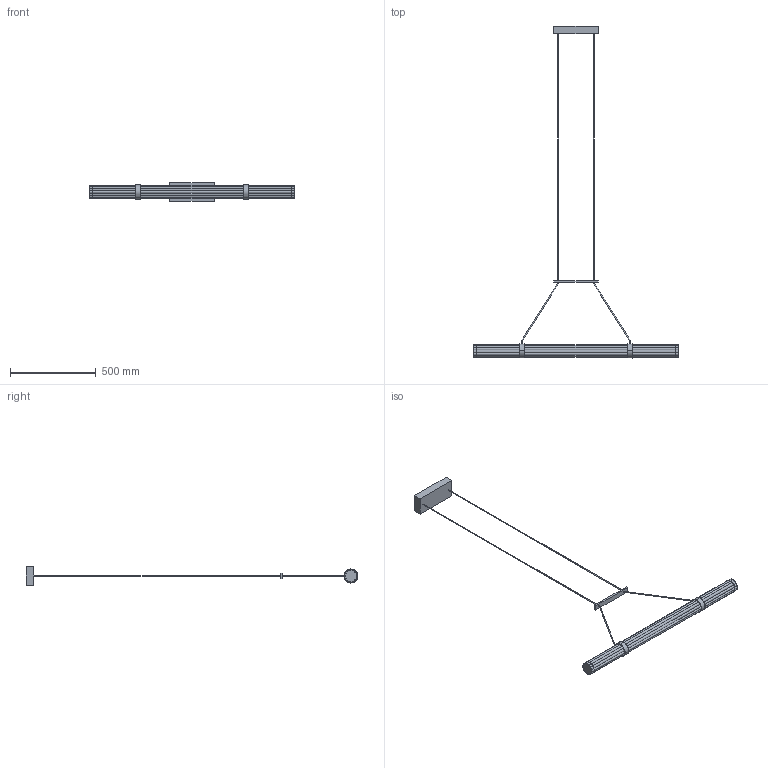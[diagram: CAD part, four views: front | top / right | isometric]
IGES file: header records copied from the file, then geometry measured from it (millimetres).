
Start section: SolidWorks IGES file using analytic representation for surfaces
Global section: file name: C:\Users\adrian\Desktop\MODELADOS USA\NIRO\NIRO_CU1314.IGS; native system: SolidWorks 2023; preprocessor: SolidWorks 2023; author: adrian; date: 260605.100514; units: inch
Bounding box: 1200 x 1935.96 x 109.98 mm (x, y, z)
Surface area: 641487.6 mm2 (no closed solid volume)
Topology: 0 solids, 0 shells, 167 faces, 3630 edges, 3630 vertices
Faces by surface type: revolution 121, bspline 46
